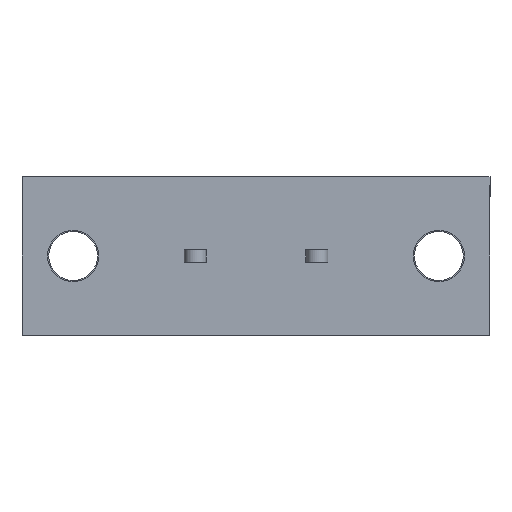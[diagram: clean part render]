
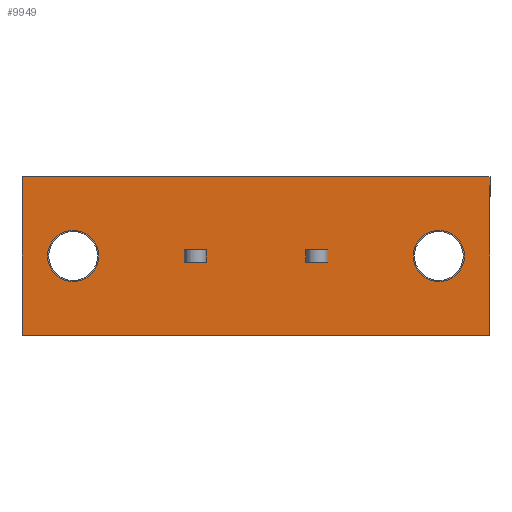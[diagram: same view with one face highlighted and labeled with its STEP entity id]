
A CAD part, front view. The second image highlights one B-rep face of the part: STEP entity #9949.
In plain terms, the highlighted planar face has unit normal (0, -1, 0).
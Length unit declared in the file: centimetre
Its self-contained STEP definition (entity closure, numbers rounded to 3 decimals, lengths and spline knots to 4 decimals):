
#542=VECTOR('',#10716,1.);
#546=VECTOR('',#10721,1.);
#557=VECTOR('',#10754,1.);
#559=VECTOR('',#10757,1.);
#726=VECTOR('',#11115,1.);
#731=VECTOR('',#11127,1.);
#735=VECTOR('',#11145,1.);
#737=VECTOR('',#11148,1.);
#783=VECTOR('',#11222,1.);
#1230=VECTOR('',#11845,1.);
#1248=VECTOR('',#11873,1.);
#1268=VECTOR('',#11909,1.);
#1692=LINE('',#12626,#542);
#1696=LINE('',#12635,#546);
#1707=LINE('',#12670,#557);
#1709=LINE('',#12674,#559);
#1876=LINE('',#13161,#726);
#1881=LINE('',#13176,#731);
#1885=LINE('',#13190,#735);
#1887=LINE('',#13194,#737);
#1933=LINE('',#13294,#783);
#2380=LINE('',#14905,#1230);
#2398=LINE('',#14944,#1248);
#2418=LINE('',#14986,#1268);
#2862=VERTEX_POINT('',#12627);
#2863=VERTEX_POINT('',#12628);
#2866=VERTEX_POINT('',#12636);
#2877=VERTEX_POINT('',#12671);
#3029=VERTEX_POINT('',#13162);
#3030=VERTEX_POINT('',#13163);
#3035=VERTEX_POINT('',#13177);
#3036=VERTEX_POINT('',#13191);
#3069=VERTEX_POINT('',#13295);
#3070=VERTEX_POINT('',#13296);
#3077=VERTEX_POINT('',#13323);
#3445=VERTEX_POINT('',#14903);
#3447=VERTEX_POINT('',#14906);
#3453=VERTEX_POINT('',#14920);
#3873=CIRCLE('',#16703,0.21);
#3883=CIRCLE('',#16860,0.21);
#3966=EDGE_CURVE('',#2862,#2863,#1692,.T.);
#3970=EDGE_CURVE('',#2866,#2862,#1696,.T.);
#3987=EDGE_CURVE('',#2877,#2866,#1707,.T.);
#3989=EDGE_CURVE('',#2863,#2877,#1709,.T.);
#4210=EDGE_CURVE('',#3029,#3030,#1876,.T.);
#4217=EDGE_CURVE('',#3035,#3029,#1881,.T.);
#4224=EDGE_CURVE('',#3036,#3035,#1885,.T.);
#4226=EDGE_CURVE('',#3030,#3036,#1887,.T.);
#4276=EDGE_CURVE('',#3069,#3070,#1933,.T.);
#4290=EDGE_CURVE('',#3077,#3077,#3873,.T.);
#4837=EDGE_CURVE('',#3447,#3445,#2380,.T.);
#4844=EDGE_CURVE('',#3453,#3453,#3883,.T.);
#4856=EDGE_CURVE('',#3069,#3445,#2398,.T.);
#4878=EDGE_CURVE('',#3070,#3447,#2418,.T.);
#7324=ORIENTED_EDGE('',*,*,#3970,.T.);
#7325=ORIENTED_EDGE('',*,*,#3966,.T.);
#7326=ORIENTED_EDGE('',*,*,#3989,.T.);
#7327=ORIENTED_EDGE('',*,*,#3987,.T.);
#7328=ORIENTED_EDGE('',*,*,#4290,.T.);
#7329=ORIENTED_EDGE('',*,*,#4217,.F.);
#7330=ORIENTED_EDGE('',*,*,#4224,.F.);
#7331=ORIENTED_EDGE('',*,*,#4226,.F.);
#7332=ORIENTED_EDGE('',*,*,#4210,.F.);
#7333=ORIENTED_EDGE('',*,*,#4844,.T.);
#7334=ORIENTED_EDGE('',*,*,#4878,.T.);
#7335=ORIENTED_EDGE('',*,*,#4837,.T.);
#7336=ORIENTED_EDGE('',*,*,#4856,.F.);
#7337=ORIENTED_EDGE('',*,*,#4276,.T.);
#8747=EDGE_LOOP('',(#7324,#7325,#7326,#7327));
#8748=EDGE_LOOP('',(#7328));
#8749=EDGE_LOOP('',(#7329,#7330,#7331,#7332));
#8750=EDGE_LOOP('',(#7333));
#8751=EDGE_LOOP('',(#7334,#7335,#7336,#7337));
#9371=FACE_BOUND('',#8747,.T.);
#9372=FACE_BOUND('',#8748,.T.);
#9373=FACE_BOUND('',#8749,.T.);
#9374=FACE_BOUND('',#8750,.T.);
#9375=FACE_BOUND('',#8751,.T.);
#9949=ADVANCED_FACE('',(#9371,#9372,#9373,#9374,#9375),#10419,.T.);
#10419=PLANE('',#16879);
#10716=DIRECTION('',(-1.,0.,0.));
#10721=DIRECTION('',(0.,0.,-1.));
#10754=DIRECTION('',(1.,0.,0.));
#10757=DIRECTION('',(0.,0.,1.));
#11115=DIRECTION('',(-1.,0.,0.));
#11127=DIRECTION('',(0.,0.,1.));
#11145=DIRECTION('',(1.,0.,0.));
#11148=DIRECTION('',(0.,0.,-1.));
#11222=DIRECTION('',(1.,0.,0.));
#11243=DIRECTION('',(0.,1.,0.));
#11244=DIRECTION('',(0.,0.,0.21));
#11845=DIRECTION('',(-1.,0.,0.));
#11854=DIRECTION('',(0.,1.,0.));
#11855=DIRECTION('',(0.,0.,0.21));
#11873=DIRECTION('',(0.,0.,1.));
#11909=DIRECTION('',(0.,0.,1.));
#11910=DIRECTION('',(0.,-1.,0.));
#12626=CARTESIAN_POINT('',(0.175,-0.95,0.91));
#12627=CARTESIAN_POINT('',(0.05,-0.95,0.91));
#12628=CARTESIAN_POINT('',(-0.05,-0.95,0.91));
#12635=CARTESIAN_POINT('',(0.05,-0.95,1.21));
#12636=CARTESIAN_POINT('',(0.05,-0.95,1.09));
#12670=CARTESIAN_POINT('',(0.175,-0.95,1.09));
#12671=CARTESIAN_POINT('',(-0.05,-0.95,1.09));
#12674=CARTESIAN_POINT('',(-0.05,-0.95,1.21));
#13161=CARTESIAN_POINT('',(0.175,-0.95,0.09));
#13162=CARTESIAN_POINT('',(0.05,-0.95,0.09));
#13163=CARTESIAN_POINT('',(-0.05,-0.95,0.09));
#13176=CARTESIAN_POINT('',(0.05,-0.95,-0.21));
#13177=CARTESIAN_POINT('',(0.05,-0.95,-0.09));
#13190=CARTESIAN_POINT('',(0.175,-0.95,-0.09));
#13191=CARTESIAN_POINT('',(-0.05,-0.95,-0.09));
#13194=CARTESIAN_POINT('',(-0.05,-0.95,-0.21));
#13294=CARTESIAN_POINT('',(-0.65,-0.95,-1.42));
#13295=CARTESIAN_POINT('',(-0.65,-0.95,-1.42));
#13296=CARTESIAN_POINT('',(0.65,-0.95,-1.42));
#13322=CARTESIAN_POINT('',(0.,-0.95,-1.));
#13323=CARTESIAN_POINT('',(0.,-0.95,-1.21));
#14903=CARTESIAN_POINT('',(-0.65,-0.95,2.42));
#14905=CARTESIAN_POINT('',(-0.65,-0.95,2.42));
#14906=CARTESIAN_POINT('',(0.65,-0.95,2.42));
#14919=CARTESIAN_POINT('',(0.,-0.95,2.));
#14920=CARTESIAN_POINT('',(0.,-0.95,1.79));
#14944=CARTESIAN_POINT('',(-0.65,-0.95,1.42));
#14986=CARTESIAN_POINT('',(0.65,-0.95,-1.42));
#14987=CARTESIAN_POINT('',(0.,-0.95,1.42));
#16703=AXIS2_PLACEMENT_3D('',#13322,#11243,#11244);
#16860=AXIS2_PLACEMENT_3D('',#14919,#11854,#11855);
#16879=AXIS2_PLACEMENT_3D('',#14987,#11910,$);
